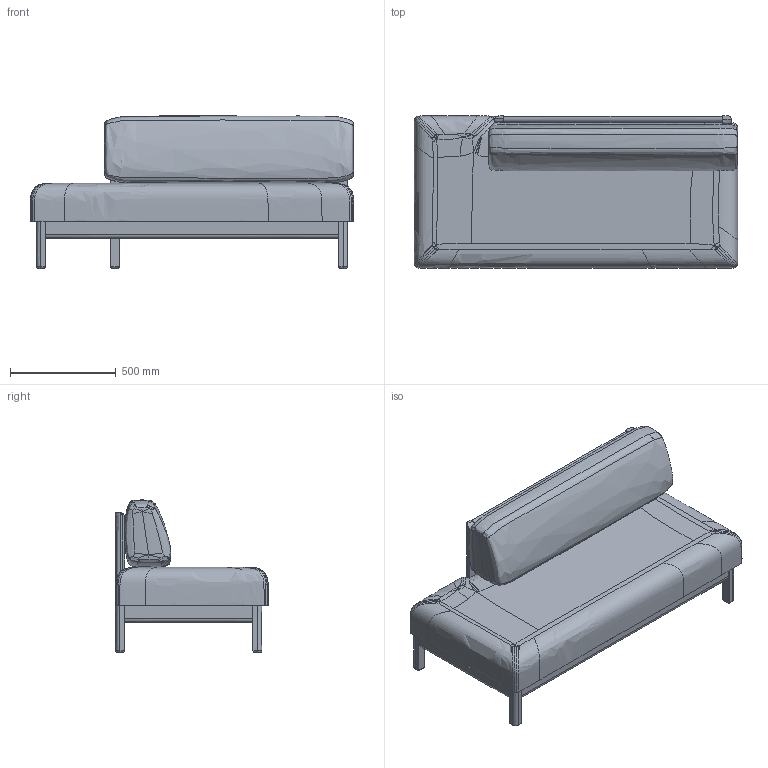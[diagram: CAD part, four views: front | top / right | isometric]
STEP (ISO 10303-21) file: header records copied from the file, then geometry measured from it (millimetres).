
FILE_DESCRIPTION(/* description */ (''),/* implementation_level */ '2;1');
FILE_NAME(/* name */ 'kinoshita_coccole_c467-3',/* time_stamp */ '2026-09-24T17:57:36+09:00',/* author */ (''),/* organization */ (''),/* preprocessor_version */ 'ST-DEVELOPER v16.5',/* originating_system */ '',/* authorisation */ '');
FILE_SCHEMA (('AUTOMOTIVE_DESIGN'));
Length unit declared in the file: millimetre
Products named in the file (1): Document
Bounding box: 1528.39 x 720 x 718.23 mm (x, y, z)
Volume: 276482873.8 mm3; surface area: 5882657.9 mm2
Topology: 3 solids, 3 shells, 233 faces, 588 edges, 353 vertices
Faces by surface type: bspline 195, plane 38
Entity records: 50348 total; most frequent: CARTESIAN_POINT 46589, ORIENTED_EDGE 1176, EDGE_CURVE 588, B_SPLINE_CURVE_WITH_KNOTS 575, VERTEX_POINT 353, EDGE_LOOP 235, ADVANCED_FACE 233, FACE_OUTER_BOUND 233
